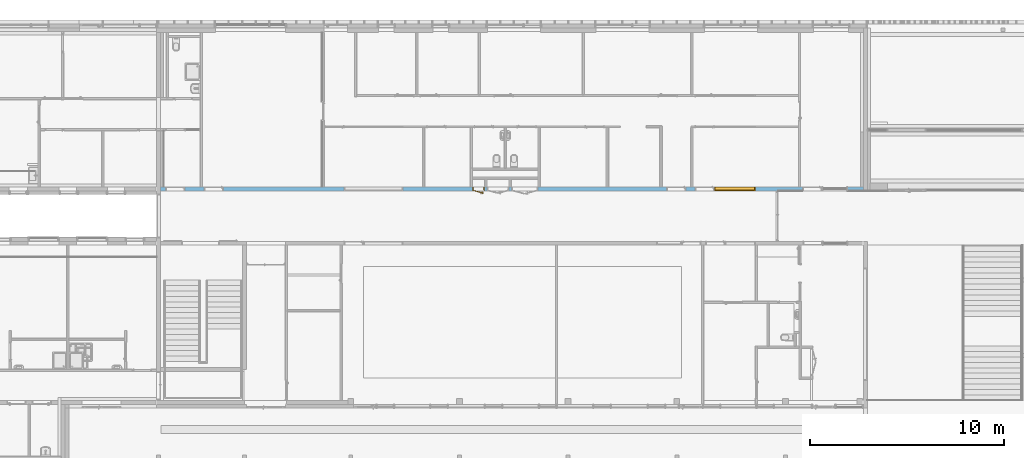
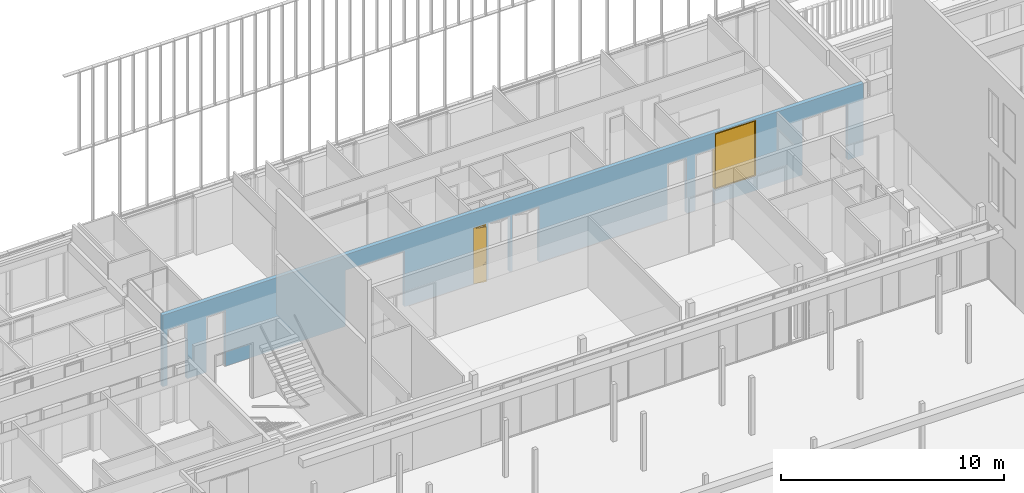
# One storey, part 214 of 240: 1 door, 1 window, 11 openings, plus 1 element that does not belong to this part.
"""IFC2X3 building model written with IfcOpenShell, lengths in centimetres."""

from ifc_helpers import new_model, entity, si_unit, converted_unit, derived_unit, direction, frame, frame_2d, origin, place, context, subcontext, project, spatial, polyline, rectangle, extrude, clip, bounded_halfspace, faceted_brep, source, transform, mapped, material, material_list, layer, layer_set, layer_usage, type_object, type_shapes, element, fill, save


model = new_model("IFC2X3")

# Units and contexts
model_context = context("Model", 3, precision=0.001, world=origin(), true_north=direction((6.12303176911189e-17, 1.0)))
body_context = subcontext(model_context, "Body", "Model", "MODEL_VIEW")
ifc_project = project(units=[si_unit("LENGTHUNIT", "METRE", prefix="CENTI"), si_unit("AREAUNIT", "SQUARE_METRE"), si_unit("VOLUMEUNIT", "CUBIC_METRE"), converted_unit("PLANEANGLEUNIT", "DEGREE", entity("IfcRatioMeasure", 0.0174532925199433), si_unit("PLANEANGLEUNIT", "RADIAN"), dimensions=[0, 0, 0, 0, 0, 0, 0]), si_unit("MASSUNIT", "GRAM", prefix="KILO"), derived_unit("MASSDENSITYUNIT", [(si_unit("MASSUNIT", "GRAM", prefix="KILO"), 1), (si_unit("LENGTHUNIT", "METRE"), -3)]), si_unit("TIMEUNIT", "SECOND"), si_unit("FREQUENCYUNIT", "HERTZ"), si_unit("THERMODYNAMICTEMPERATUREUNIT", "DEGREE_CELSIUS"), derived_unit("THERMALTRANSMITTANCEUNIT", [(si_unit("MASSUNIT", "GRAM", prefix="KILO"), 1), (si_unit("THERMODYNAMICTEMPERATUREUNIT", "KELVIN"), -1), (si_unit("TIMEUNIT", "SECOND"), -3)]), derived_unit("VOLUMETRICFLOWRATEUNIT", [(si_unit("LENGTHUNIT", "METRE"), 3), (si_unit("TIMEUNIT", "SECOND"), -1)]), si_unit("ELECTRICCURRENTUNIT", "AMPERE"), si_unit("ELECTRICVOLTAGEUNIT", "VOLT"), si_unit("POWERUNIT", "WATT"), si_unit("FORCEUNIT", "NEWTON", prefix="KILO"), si_unit("ILLUMINANCEUNIT", "LUX"), si_unit("LUMINOUSFLUXUNIT", "LUMEN"), si_unit("LUMINOUSINTENSITYUNIT", "CANDELA"), derived_unit("USERDEFINED", [(si_unit("MASSUNIT", "GRAM", prefix="KILO"), -1), (si_unit("LENGTHUNIT", "METRE"), -2), (si_unit("TIMEUNIT", "SECOND"), 3), (si_unit("LUMINOUSFLUXUNIT", "LUMEN"), 1)]), derived_unit("LINEARVELOCITYUNIT", [(si_unit("LENGTHUNIT", "METRE"), 1), (si_unit("TIMEUNIT", "SECOND"), -1)]), si_unit("PRESSUREUNIT", "PASCAL"), derived_unit("USERDEFINED", [(si_unit("LENGTHUNIT", "METRE"), -2), (si_unit("MASSUNIT", "GRAM", prefix="KILO"), 1), (si_unit("TIMEUNIT", "SECOND"), -2)])], contexts=[model_context])

# Site, building, storey
site_placement = place(None, frame((-2781.94577612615, 7442.24238424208, 0.0)))
site = spatial("IfcSite", under=ifc_project, at=site_placement, Name="Default", CompositionType="ELEMENT")
building_placement = place(site_placement, origin())
building = spatial("IfcBuilding", under=site, at=building_placement, CompositionType="ELEMENT")
storey_placement = place(building_placement, origin())
storey = spatial("IfcBuildingStorey", under=building, at=storey_placement, Name="N00 - COO", CompositionType="ELEMENT", Elevation=0.0)

# Wall, openings, door, window
ifc_material_1 = material(Name="01 - Maçonnerie")
ifc_layer = layer(ifc_material_1, 20.0)
ifc_layer_set = layer_set([ifc_layer], Name="Mur de base:04 - Structure - béton - 20cm")
ifc_layer_usage = layer_usage(ifc_layer_set, "AXIS2", "NEGATIVE", 10.0)
wall_type = type_object("IfcWallType", Name="Mur de base:04 - Structure - béton - 20cm", PredefinedType="STANDARD", material=ifc_layer_set)
wall_placement = place(building_placement, frame((-8409.49987766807, -820.048500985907, 0.0)))
wall = element("IfcWallStandardCase", 1, at=wall_placement, inside=storey, type_object=wall_type, material=ifc_layer_usage, Name="Mur de base:04 - Structure - béton - 20cm", ObjectType="Mur de base:04 - Structure - béton - 20cm", context=body_context, shape_type="Clipping", body=[
    clip(extrude(rectangle(XDim=3621.50000006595, YDim=20.0, at=frame_2d((1810.75000003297, -1.59872115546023e-14), x_axis=(-1.0, 0.0))), origin(), (0.0, 0.0, 1.0), 391.0), bounded_halfspace(frame((0.0, -10.0, 391.0), z_axis=(0.0, 0.0, -1.0), x_axis=(0.0, 1.0, 0.0)), True, frame((0.0, -10.0, 391.0), z_axis=(0.0, 0.0, -1.0), x_axis=(0.0, 1.0, 0.0)), polyline([(0.0, 0.0), (20.0, 0.0), (20.0, 205.0), (20.0, 215.0), (20.0, 833.250000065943), (20.0, 843.250000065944), (20.0, 1351.0), (20.0, 1361.0), (20.0, 1603.69999798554), (20.0, 1671.0), (20.0, 1680.69999798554), (20.0, 1799.69999798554), (20.0, 1946.0), (20.0, 1956.0), (20.0, 2296.0), (20.0, 2306.0), (20.0, 2573.0), (20.0, 2583.0), (20.0, 2733.0), (20.0, 2743.0), (20.0, 3287.0), (20.0, 3297.0), (20.0, 3621.50000006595), (0.0, 3621.50000006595), (0.0, 3182.0), (0.0, 3172.0), (0.0, 0.0)]))),
])
opening_1_placement = place(wall_placement, origin())
element("IfcOpeningElement", 2, at=opening_1_placement, cuts=wall, Name="Mur de base:04 - Structure - béton - 20cm", ObjectType="Opening", context=body_context, shape_type="SweptSolid", body=[
    extrude(rectangle(XDim=306.0, YDim=133.000000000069, at=frame_2d((0.0, 4.33431068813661e-13), x_axis=(1.0, 0.0))), frame((3473.50000006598, -25.24, 153.0), z_axis=(0.0, 1.0, 0.0), x_axis=(0.0, 0.0, 1.0)), (0.0, 0.0, 1.0), 50.48),
])
opening_2_placement = place(wall_placement, frame((225.0, -10.0, 0.0)))
element("IfcOpeningElement", 3, at=opening_2_placement, cuts=wall, Name="Int. Simple:PV (0.93m x 3.00m):1", ObjectType="Opening", context=body_context, shape_type="SweptSolid", body=[
    extrude(rectangle(XDim=304.500000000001, YDim=99.9999999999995, at=frame_2d((152.250000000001, 50.0), x_axis=(1.0, 0.0))), frame((0.0, 0.0, 0.0), z_axis=(0.0, 1.0, 0.0), x_axis=(0.0, 0.0, 1.0)), (0.0, 0.0, 1.0), 20.0),
])
opening_3_placement = place(wall_placement, frame((2608.0, -10.0, 0.0)))
element("IfcOpeningElement", 4, at=opening_3_placement, cuts=wall, Name="Int. Simple:PV (0.93m x 3.00m):1", ObjectType="Opening", context=body_context, shape_type="SweptSolid", body=[
    extrude(rectangle(XDim=304.500000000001, YDim=99.9999999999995, at=frame_2d((152.250000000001, 50.0), x_axis=(1.0, 0.0))), frame((0.0, 0.0, 0.0), z_axis=(0.0, 1.0, 0.0), x_axis=(0.0, 0.0, 1.0)), (0.0, 0.0, 1.0), 20.0),
])
opening_4_placement = place(wall_placement, frame((2753.0, -10.0, 0.0)))
element("IfcOpeningElement", 5, at=opening_4_placement, cuts=wall, Name="Int. Simple:PV (0.93m x 3.00m):1", ObjectType="Opening", context=body_context, shape_type="SweptSolid", body=[
    extrude(rectangle(XDim=304.500000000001, YDim=99.9999999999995, at=frame_2d((152.250000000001, 50.0), x_axis=(1.0, 0.0))), frame((0.0, 0.0, 0.0), z_axis=(0.0, 1.0, 0.0), x_axis=(0.0, 0.0, 1.0)), (0.0, 0.0, 1.0), 20.0),
])
opening_5_placement = place(wall_placement, frame((3307.0, -10.0, 0.0)))
element("IfcOpeningElement", 6, at=opening_5_placement, cuts=wall, Name="Int. Simple:PV (0.93m x 3.00m):1", ObjectType="Opening", context=body_context, shape_type="SweptSolid", body=[
    extrude(rectangle(XDim=304.500000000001, YDim=99.9999999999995, at=frame_2d((152.250000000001, 50.0), x_axis=(1.0, 0.0))), frame((0.0, 0.0, 0.0), z_axis=(0.0, 1.0, 0.0), x_axis=(0.0, 0.0, 1.0)), (0.0, 0.0, 1.0), 20.0),
])
opening_6_placement = place(wall_placement, frame((1944.50000006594, 10.0, 0.0)))
element("IfcOpeningElement", 7, at=opening_6_placement, cuts=wall, Name="Int. Double:PP Placard (1.26m x 2.04m):1", ObjectType="Opening", context=body_context, shape_type="SweptSolid", body=[
    extrude(rectangle(XDim=304.500000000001, YDim=137.0, at=frame_2d((152.250000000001, 68.5), x_axis=(1.0, 0.0))), frame((0.0, 0.0, 0.0), z_axis=(0.0, -1.0, 0.0), x_axis=(0.0, 0.0, 1.0)), (0.0, 0.0, 1.0), 20.0),
])
opening_7_placement = place(wall_placement, frame((1794.50000006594, 10.0, 0.0)))
element("IfcOpeningElement", 8, at=opening_7_placement, cuts=wall, Name="Int. Double:PP Placard (1.05m x 3.00m):1", ObjectType="Opening", context=body_context, shape_type="SweptSolid", body=[
    extrude(rectangle(XDim=304.500000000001, YDim=112.0, at=frame_2d((152.250000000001, 56.0000000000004), x_axis=(1.0, 0.0))), frame((0.0, 0.0, 0.0), z_axis=(0.0, -1.0, 0.0), x_axis=(0.0, 0.0, 1.0)), (0.0, 0.0, 1.0), 20.0),
])
opening_8_placement = place(wall_placement, frame((1669.50000006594, 10.0, 0.0)))
opening_8 = element("IfcOpeningElement", 9, at=opening_8_placement, cuts=wall, Name="Int. Simple:PP Placard (0.55m x 3.00m):1", ObjectType="Opening", context=body_context, shape_type="SweptSolid", body=[
    extrude(rectangle(XDim=304.500000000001, YDim=61.9999999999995, at=frame_2d((152.250000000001, 30.9999999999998), x_axis=(1.0, 0.0))), frame((0.0, 0.0, 0.0), z_axis=(0.0, -1.0, 0.0), x_axis=(0.0, 0.0, 1.0)), (0.0, 0.0, 1.0), 20.0),
])
opening_9_placement = place(wall_placement, frame((945.0, -10.0, 0.0)))
element("IfcOpeningElement", 10, at=opening_9_placement, cuts=wall, Name="châssis intérieur vitré:châssis intérieur vitré (h=306):1", ObjectType="Opening", context=body_context, shape_type="SweptSolid", body=[
    extrude(rectangle(XDim=306.0, YDim=304.999999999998, at=frame_2d((153.0, 152.499999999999), x_axis=(1.0, 0.0))), frame((0.0, 0.0, 0.0), z_axis=(0.0, 1.0, 0.0), x_axis=(0.0, 0.0, 1.0)), (0.0, 0.0, 1.0), 20.0),
])
opening_10_placement = place(wall_placement, frame((25.2999999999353, -10.0, 0.0)))
element("IfcOpeningElement", 11, at=opening_10_placement, cuts=wall, Name="Int. Simple:PV (0.93m x 3.00m):1", ObjectType="Opening", context=body_context, shape_type="SweptSolid", body=[
    extrude(rectangle(XDim=304.500000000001, YDim=99.9999999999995, at=frame_2d((152.250000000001, 50.0), x_axis=(1.0, 0.0))), frame((0.0, 0.0, 0.0), z_axis=(0.0, 1.0, 0.0), x_axis=(0.0, 0.0, 1.0)), (0.0, 0.0, 1.0), 20.0),
])
opening_11_placement = place(wall_placement, frame((2853.0, -10.0, 80.0)))
opening_11 = element("IfcOpeningElement", 12, at=opening_11_placement, cuts=wall, Name="châssis intérieur vitré:châssis intérieur vitré (h=306):1", ObjectType="Opening", context=body_context, shape_type="SweptSolid", body=[
    extrude(rectangle(XDim=306.0, YDim=212.0, at=frame_2d((153.0, 106.0), x_axis=(1.0, 0.0))), frame((0.0, 0.0, 0.0), z_axis=(0.0, 1.0, 0.0), x_axis=(0.0, 0.0, 1.0)), (0.0, 0.0, 1.0), 20.0),
])
ifc_material_2 = material(Name="Finition Peinture - Blanc satiné")
ifc_material_3 = material(Name="Bois - Panneau de porte")
ifc_material_4 = material(Name="Bois - Cadre de porte")
ifc_material_list_1 = material_list([ifc_material_2, ifc_material_3, ifc_material_4])
ifc_material_list_2 = material_list([ifc_material_2, ifc_material_3, ifc_material_4])
door_style = type_object("IfcDoorStyle", Name="PP Placard (0.55m x 3.00m)", ConstructionType="NOTDEFINED", OperationType="SINGLE_SWING_RIGHT", ParameterTakesPrecedence=False, Sizeable=False, material=ifc_material_list_2)
shared_shape_1 = source(origin(), body_context, "Body", "Brep", [
    faceted_brep([(59.6328076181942, -13.6827342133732, 87.0), (59.6328076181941, -13.6827342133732, 108.0), (58.700955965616, -13.4330453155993, 108.399601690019), (57.700955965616, -13.1650961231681, 108.535898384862), (56.700955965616, -12.897146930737, 108.399601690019), (55.7691043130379, -12.6474580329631, 108.0), (55.7691043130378, -12.6474580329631, 87.0), (56.7009559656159, -12.897146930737, 86.6003983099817), (57.7009559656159, -13.1650961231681, 86.464101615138), (58.7009559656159, -13.4330453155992, 86.6003983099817), (59.7622171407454, -13.1997713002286, 108.0), (59.7622171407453, -13.1997713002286, 87.0), (58.8303654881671, -12.9500824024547, 86.6003983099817), (57.8303654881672, -12.6821332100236, 86.464101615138), (56.8303654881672, -12.4141840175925, 86.6003983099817), (55.898513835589, -12.1644951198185, 87.0), (55.8985138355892, -12.1644951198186, 108.0), (56.8303654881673, -12.4141840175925, 108.399601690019), (57.8303654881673, -12.6821332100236, 108.535898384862), (58.8303654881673, -12.9500824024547, 108.399601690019)], [[[0, 1, 2, 3, 4, 5, 6, 7, 8, 9]], [[10, 11, 12, 13, 14, 15, 16, 17, 18, 19]], [[9, 12, 11, 0]], [[8, 13, 12, 9]], [[7, 14, 13, 8]], [[7, 6, 15, 14]], [[15, 6, 5, 16]], [[4, 17, 16, 5]], [[3, 18, 17, 4]], [[2, 19, 18, 3]], [[2, 1, 10, 19]], [[11, 10, 1, 0]]]),
    faceted_brep([(60.7974933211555, -9.33606799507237, 87.0), (60.7974933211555, -9.33606799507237, 108.0), (59.8656416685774, -9.08637909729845, 108.399601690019), (58.8656416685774, -8.81842990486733, 108.535898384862), (57.8656416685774, -8.55048071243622, 108.399601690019), (56.9337900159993, -8.3007918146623, 108.0), (56.9337900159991, -8.30079181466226, 87.0), (57.8656416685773, -8.55048071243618, 86.6003983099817), (58.8656416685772, -8.8184299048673, 86.464101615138), (59.8656416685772, -9.08637909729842, 86.6003983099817), (58.9950511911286, -8.3354669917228, 108.535898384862), (59.9950511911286, -8.60341618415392, 108.399601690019), (60.9269028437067, -8.85310508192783, 108.0), (60.9269028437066, -8.85310508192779, 87.0), (59.9950511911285, -8.60341618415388, 86.6003983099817), (58.9950511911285, -8.33546699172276, 86.464101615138), (57.9950511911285, -8.06751779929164, 86.6003983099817), (57.0631995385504, -7.81782890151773, 87.0), (57.0631995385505, -7.81782890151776, 108.0), (57.9950511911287, -8.06751779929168, 108.399601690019)], [[[0, 1, 2, 3, 4, 5, 6, 7, 8, 9]], [[10, 11, 12, 13, 14, 15, 16, 17, 18, 19]], [[4, 19, 18, 5]], [[3, 10, 19, 4]], [[2, 11, 10, 3]], [[2, 1, 12, 11]], [[13, 12, 1, 0]], [[9, 14, 13, 0]], [[8, 15, 14, 9]], [[7, 16, 15, 8]], [[7, 6, 17, 16]], [[17, 6, 5, 18]]]),
    faceted_brep([(57.5053271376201, -13.1126775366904, 100.778044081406), (57.8965847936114, -13.2175147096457, 100.778044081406), (58.2805114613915, -13.3203875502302, 100.699999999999), (58.2805114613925, -13.3203875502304, 99.2999999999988), (57.8965847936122, -13.2175147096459, 99.221955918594), (57.5053271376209, -13.1126775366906, 99.2219559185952), (57.1214004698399, -13.0098046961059, 99.3000000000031), (57.12140046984, -13.0098046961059, 100.7), (57.2235368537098, -15.7293638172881, 100.778044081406), (57.5648521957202, -15.9912642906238, 100.7), (56.8757041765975, -15.4624624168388, 100.778044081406), (55.2007309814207, -16.4295086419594, 100.778044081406), (55.2579580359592, -16.8641912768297, 100.778044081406), (56.5343888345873, -15.2005619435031, 100.7), (56.5343888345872, -15.200561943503, 99.3000000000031), (56.8757041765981, -15.4624624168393, 99.2219559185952), (57.2235368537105, -15.7293638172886, 99.221955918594), (55.2579580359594, -16.8641912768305, 99.221955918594), (55.2007309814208, -16.4295086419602, 99.2219559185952), (57.5648521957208, -15.9912642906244, 99.2999999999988), (55.3141128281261, -17.2907292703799, 100.7), (55.144576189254, -16.0029706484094, 100.7), (55.1445761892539, -16.0029706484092, 99.3000000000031), (55.3141128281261, -17.2907292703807, 99.2999999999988), (46.8486006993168, -15.0224021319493, 100.7), (46.9514735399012, -14.6384754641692, 100.778044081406), (47.0563107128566, -14.2472178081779, 100.778044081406), (47.1591835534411, -13.8632911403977, 100.699999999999), (47.1591835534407, -13.8632911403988, 99.3000000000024), (47.0563107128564, -14.2472178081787, 99.2219559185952), (46.951473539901, -14.63847546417, 99.221955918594), (46.8486006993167, -15.0224021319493, 99.2999999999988), (51.076102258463, -15.5339920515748, 100.78786867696), (51.4571239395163, -16.2572522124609, 100.7), (51.1518798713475, -14.9331308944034, 100.7), (51.1518798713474, -14.9331308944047, 99.3000000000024), (51.0761022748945, -15.5339920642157, 99.2121313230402), (51.4571246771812, -16.2572524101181, 99.2999999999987)], [[[0, 1, 2, 3, 4, 5, 6, 7]], [[2, 1, 8, 9]], [[1, 0, 10, 11, 12, 8]], [[0, 7, 13, 10]], [[14, 13, 7, 6]], [[5, 15, 14, 6]], [[5, 4, 16, 17, 18, 15]], [[3, 19, 16, 4]], [[9, 19, 3, 2]], [[9, 8, 12, 20]], [[10, 13, 21, 11]], [[22, 21, 13, 14]], [[14, 15, 18, 22]], [[16, 19, 23, 17]], [[20, 23, 19, 9]], [[24, 25, 26, 27, 28, 29, 30, 31]], [[32, 25, 33]], [[33, 25, 24]], [[33, 20, 12]], [[11, 34, 32]], [[34, 11, 21]], [[27, 26, 34]], [[32, 26, 25]], [[32, 34, 26]], [[32, 33, 12]], [[11, 32, 12]], [[21, 22, 35, 28, 27, 34]], [[36, 29, 35]], [[30, 36, 37]], [[18, 35, 22]], [[29, 28, 35]], [[30, 37, 31]], [[37, 17, 23]], [[36, 17, 37]], [[36, 18, 17]], [[36, 35, 18]], [[29, 36, 30]], [[23, 20, 33, 24, 31, 37]]]),
    faceted_brep([(58.7994223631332, -8.28304840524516, 99.2219559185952), (59.1906800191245, -8.38788557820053, 99.221955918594), (59.5746066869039, -8.49075841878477, 99.2999999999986), (59.5746066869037, -8.49075841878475, 100.7), (59.1906800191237, -8.38788557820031, 100.778044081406), (58.7994223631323, -8.28304840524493, 100.778044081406), (58.4154956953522, -8.18017556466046, 100.7), (58.4154956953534, -8.18017556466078, 99.3000000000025), (58.9974556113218, -6.00827159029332, 100.7), (58.9974556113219, -6.00827159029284, 99.3000000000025), (59.4239936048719, -5.95211679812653, 100.778044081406), (59.8586762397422, -5.89488974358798, 100.778044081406), (58.7141254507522, -3.91246962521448, 100.778044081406), (58.4472240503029, -4.26030230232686, 100.778044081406), (60.2852142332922, -5.8387349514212, 100.7), (60.2852142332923, -5.83873495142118, 99.2999999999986), (59.8586762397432, -5.89488974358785, 99.221955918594), (59.4239936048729, -5.9521167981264, 99.2219559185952), (58.4472240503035, -4.26030230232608, 99.2219559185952), (58.7141254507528, -3.9124696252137, 99.221955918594), (58.1853235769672, -4.60161764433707, 100.7), (58.185323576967, -4.60161764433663, 99.3000000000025), (58.9760259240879, -3.57115428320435, 100.7), (58.976025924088, -3.57115428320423, 99.2999999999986), (50.3134642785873, -2.08086794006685, 100.778044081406), (50.4183014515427, -1.6896102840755, 100.778044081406), (50.5211742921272, -1.30568361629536, 100.7), (50.5211742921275, -1.30568361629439, 99.2999999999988), (50.418301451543, -1.68961028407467, 99.221955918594), (50.3134642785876, -2.08086794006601, 99.2219559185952), (50.2105914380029, -2.46479460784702, 99.3000000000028), (50.2105914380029, -2.46479460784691, 100.7), (54.1979575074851, -3.53320612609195, 100.7), (54.1979586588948, -3.53320643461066, 99.3000000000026), (54.4327627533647, -2.97495629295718, 100.78786867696), (55.1190370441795, -2.53767722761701, 100.7), (55.1190371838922, -2.5376772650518, 99.2999999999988), (54.4327627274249, -2.97495629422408, 99.2121313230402)], [[[0, 1, 2, 3, 4, 5, 6, 7]], [[8, 9, 7, 6]], [[5, 10, 8, 6]], [[5, 4, 11, 12, 13, 10]], [[3, 14, 11, 4]], [[14, 3, 2, 15]], [[2, 1, 16, 15]], [[1, 0, 17, 18, 19, 16]], [[0, 7, 9, 17]], [[20, 21, 9, 8]], [[8, 10, 13, 20]], [[14, 22, 12, 11]], [[23, 22, 14, 15]], [[15, 16, 19, 23]], [[17, 9, 21, 18]], [[24, 25, 26, 27, 28, 29, 30, 31]], [[21, 20, 32, 31, 30, 33]], [[34, 24, 32]], [[25, 34, 35]], [[13, 32, 20]], [[24, 31, 32]], [[25, 35, 26]], [[35, 12, 22]], [[34, 12, 35]], [[34, 13, 12]], [[34, 32, 13]], [[24, 34, 25]], [[22, 23, 36, 27, 26, 35]], [[37, 28, 36]], [[36, 28, 27]], [[36, 23, 19]], [[18, 33, 37]], [[33, 18, 21]], [[30, 29, 33]], [[37, 29, 28]], [[37, 33, 29]], [[37, 36, 19]], [[18, 37, 19]]]),
    faceted_brep([(64.6611966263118, -10.3713441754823, 301.0), (64.6611966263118, -10.3713441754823, 0.0), (11.535276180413, 3.86370330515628, 0.0), (11.535276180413, 3.86370330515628, 301.0), (63.6259204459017, -14.2350474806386, 301.0), (10.5000000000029, 0.0, 301.0), (10.5000000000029, 0.0, 0.0), (63.6259204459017, -14.2350474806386, 0.0)], [[[0, 1, 2, 3]], [[4, 5, 6, 7]], [[3, 5, 4, 0]], [[2, 6, 5, 3]], [[1, 7, 6, 2]], [[0, 4, 7, 1]]]),
    faceted_brep([(69.0, 20.0, 0.0), (69.0, 0.0, 0.0), (70.500000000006, 0.0, 0.0), (70.500000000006, -0.500000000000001, 0.0), (65.500000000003, -0.500000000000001, 0.0), (65.500000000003, 4.0, 0.0), (64.0, 4.0, 0.0), (64.0, 20.5000000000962, 0.0), (70.5000000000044, 20.5000000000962, 0.0), (70.5000000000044, 20.0, 0.0), (70.5000000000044, 20.0, 306.0), (5.50000000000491, 20.0, 306.0), (5.50000000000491, 20.0, 0.0), (7.0, 20.0, 0.0), (7.0, 20.0, 304.500000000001), (69.0, 20.0, 304.500000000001), (70.5000000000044, 20.5000000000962, 306.0), (64.0, 20.5000000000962, 299.5), (12.0, 20.5000000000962, 299.5), (12.0, 20.5000000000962, 0.0), (5.50000000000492, 20.5000000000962, 0.0), (5.50000000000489, 20.5000000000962, 306.0), (64.0, 4.0, 299.5), (65.500000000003, 4.0, 301.0), (10.5000000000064, 4.0, 301.0), (10.5000000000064, 4.0, 0.0), (12.0, 4.0, 0.0), (12.0, 4.0, 299.5), (65.500000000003, -0.500000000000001, 301.0), (70.500000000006, -0.500000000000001, 306.0), (5.50000000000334, -0.500000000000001, 306.0), (5.50000000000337, -0.500000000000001, 0.0), (10.5000000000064, -0.500000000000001, 0.0), (10.5000000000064, -0.500000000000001, 301.0), (70.500000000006, 0.0, 306.0), (69.0, 0.0, 304.500000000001), (7.0, 0.0, 304.500000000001), (7.0, 0.0, 0.0), (5.50000000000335, 0.0, 0.0), (5.50000000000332, 0.0, 306.0)], [[[0, 1, 2, 3, 4, 5, 6, 7, 8, 9]], [[9, 10, 11, 12, 13, 14, 15, 0]], [[8, 16, 10, 9]], [[7, 17, 18, 19, 20, 21, 16, 8]], [[7, 6, 22, 17]], [[5, 23, 24, 25, 26, 27, 22, 6]], [[5, 4, 28, 23]], [[3, 29, 30, 31, 32, 33, 28, 4]], [[2, 34, 29, 3]], [[1, 35, 36, 37, 38, 39, 34, 2]], [[0, 15, 35, 1]], [[14, 13, 37, 36]], [[13, 12, 20, 19, 26, 25, 32, 31, 38, 37]], [[21, 20, 12, 11]], [[27, 26, 19, 18]], [[33, 32, 25, 24]], [[39, 38, 31, 30]], [[15, 14, 36, 35]], [[16, 21, 11, 10]], [[22, 27, 18, 17]], [[28, 33, 24, 23]], [[34, 39, 30, 29]]]),
])
type_shapes(door_style, [shared_shape_1])
door_placement = place(opening_8_placement, frame((-69.0, -20.0, 0.0)))
door = element("IfcDoor", 13, at=door_placement, inside=storey, type_object=door_style, material=ifc_material_list_1, Name="Int. Simple:PP Placard (0.55m x 3.00m)", ObjectType="Int. Simple:PP Placard (0.55m x 3.00m)", OverallHeight=304.500000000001, OverallWidth=61.9999999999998, context=body_context, shape_type="MappedRepresentation", body=[
    mapped(shared_shape_1, transform((0.0, 0.0, 0.0), scale=1.0)),
])
fill(opening_8, door)
ifc_material_5 = material(Name="Verre")
ifc_material_6 = material(Name="huisserie bois")
ifc_material_list_3 = material_list([ifc_material_5, ifc_material_6])
ifc_material_list_4 = material_list([ifc_material_5, ifc_material_6])
window_style = type_object("IfcWindowStyle", Name="châssis intérieur vitré (h=306)", ConstructionType="NOTDEFINED", OperationType="NOTDEFINED", ParameterTakesPrecedence=False, Sizeable=False, material=ifc_material_list_4)
shared_shape_2 = source(origin(), body_context, "Body", "Brep", [
    faceted_brep([(3.0, 5.0, 303.0), (209.0, 5.0, 303.0), (209.0, 5.0, 3.0), (3.0, 5.0, 3.0), (3.0, 2.0, 3.0), (3.0, 2.0, 303.0), (209.0, 2.0, 3.0), (209.0, 2.0, 303.0)], [[[0, 1, 2, 3]], [[3, 4, 5, 0]], [[2, 6, 4, 3]], [[1, 7, 6, 2]], [[5, 4, 6, 7]], [[0, 5, 7, 1]]]),
    faceted_brep([(3.0, 2.0, 303.0), (3.0, 2.0, 3.0), (3.0, 0.0, 3.0), (3.0, 0.0, 303.0), (209.0, 0.0, 3.0), (209.0, 0.0, 303.0), (5.0, 0.0, 5.0), (5.0, 0.0, 301.0), (207.0, 0.0, 301.0), (207.0, 0.0, 5.0), (209.0, 2.0, 3.0), (209.0, 2.0, 303.0), (5.0, 2.0, 301.0), (5.0, 2.0, 5.0), (207.0, 2.0, 5.0), (207.0, 2.0, 301.0)], [[[0, 1, 2, 3]], [[3, 2, 4, 5], [6, 7, 8, 9]], [[1, 10, 4, 2]], [[1, 0, 11, 10], [12, 13, 14, 15]], [[7, 6, 13, 12]], [[6, 9, 14, 13]], [[10, 11, 5, 4]], [[9, 8, 15, 14]], [[11, 0, 3, 5]], [[8, 7, 12, 15]]]),
    faceted_brep([(5.0, 5.0, 301.0), (5.0, 5.0, 5.0), (5.0, 20.0, 5.0), (5.0, 20.0, 301.0), (207.0, 20.0, 5.0), (207.0, 20.0, 301.0), (0.0, 20.0, 0.0), (0.0, 20.0, 306.0), (212.0, 20.0, 306.0), (212.0, 20.0, 0.0), (207.0, 5.0, 5.0), (207.0, 5.0, 301.0), (3.0, 5.0, 303.0), (3.0, 5.0, 3.0), (209.0, 5.0, 3.0), (209.0, 5.0, 303.0), (3.0, 0.0, 303.0), (3.0, 0.0, 3.0), (209.0, 0.0, 3.0), (209.0, 0.0, 303.0), (0.0, 0.0, 306.0), (0.0, 0.0, 0.0), (212.0, 0.0, 0.0), (212.0, 0.0, 306.0)], [[[0, 1, 2, 3]], [[3, 2, 4, 5], [6, 7, 8, 9]], [[1, 10, 4, 2]], [[1, 0, 11, 10], [12, 13, 14, 15]], [[16, 17, 13, 12]], [[17, 18, 14, 13]], [[17, 16, 19, 18], [20, 21, 22, 23]], [[7, 6, 21, 20]], [[6, 9, 22, 21]], [[10, 11, 5, 4]], [[18, 19, 15, 14]], [[9, 8, 23, 22]], [[11, 0, 3, 5]], [[19, 16, 12, 15]], [[8, 7, 20, 23]]], outer=[[True], [False, True], [True], [False, True], [True], [True], [False, True], [True], [True], [True], [True], [True], [True], [True], [True]]),
])
type_shapes(window_style, [shared_shape_2])
window_placement = place(opening_11_placement, frame((6.59420038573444e-08, 0.0, 0.0)))
window = element("IfcWindow", 14, at=window_placement, inside=storey, type_object=window_style, material=ifc_material_list_3, Name="châssis intérieur vitré:châssis intérieur vitré (h=306)", ObjectType="châssis intérieur vitré:châssis intérieur vitré (h=306)", OverallHeight=306.0, OverallWidth=212.0, context=body_context, shape_type="MappedRepresentation", body=[
    mapped(shared_shape_2, transform((0.0, 0.0, 0.0), scale=1.0)),
])
fill(opening_11, window)

save(model, "model.ifc")
